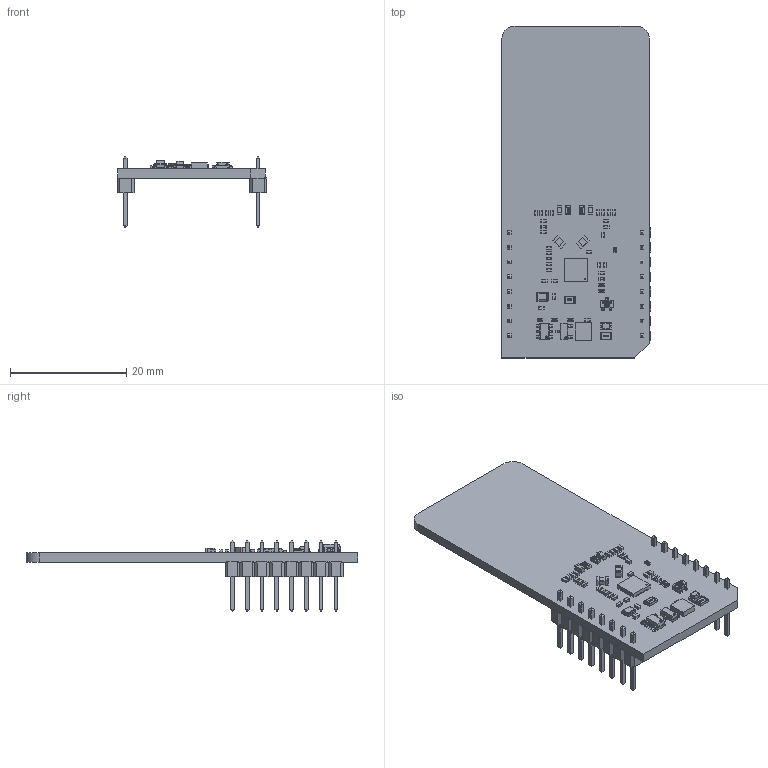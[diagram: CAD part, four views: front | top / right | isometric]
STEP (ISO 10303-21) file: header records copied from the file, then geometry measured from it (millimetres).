
FILE_DESCRIPTION(('Open CASCADE Model'),'2;1');
FILE_NAME('Open CASCADE Shape Model','2026-04-02T12:57:03',('Author'),( 'Open CASCADE'),'Open CASCADE STEP processor 6.8','Open CASCADE 6.8' ,'Unknown');
FILE_SCHEMA(('AUTOMOTIVE_DESIGN { 1 0 10303 214 1 1 1 1 }'));
Length unit declared in the file: millimetre
Products named in the file (76): PCB; Board; MBD1; Header_1x8; Free-Models; 1240637040; User_Library-PinHeaderX5-1_PinHeaderX5_Body_1; User_Library-PinHeaderX5-1_PinHeaderX5_Pins_1; JP1; User_Library-R_0805; U2; User_Library-SOT23-6-2; U1; 1252495080; Extruded; Q1; SOT23-3; R4; User_Library-R_0402; C1; User_Library-SMD_CAPACITOR0402; R2; LD1; led_0805_green; R1; R3; C2; C3; C4; C5; C6; C7; C8; C9; C10; C11; C12; C13; R5; U3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
Assembly tree (116 placements, depth 7):
  PCB
    Board
    MBD1
      Header_1x8  x2
        PCB
          Free-Models
            1240637040  x2
              User_Library-PinHeaderX5-1_PinHeaderX5_Body_1
              User_Library-PinHeaderX5-1_PinHeaderX5_Pins_1
    JP1
      User_Library-R_0805
    U2
      User_Library-SOT23-6-2
    U1
      1252495080
        Extruded
    Q1
      SOT23-3
    R4
      User_Library-R_0402
    C1
      User_Library-SMD_CAPACITOR0402
    R2
      User_Library-R_0402
    LD1
      led_0805_green
    R1
      User_Library-R_0805
    R3
      User_Library-R_0402
    C2
      User_Library-SMD_CAPACITOR0402
    C3
      User_Library-SMD_CAPACITOR0402
    C4
      User_Library-SMD_CAPACITOR0402
    C5
      User_Library-SMD_CAPACITOR0402
    C6
      User_Library-SMD_CAPACITOR0402
    C7
      User_Library-SMD_CAPACITOR0402
    C8
      User_Library-SMD_CAPACITOR0402
    C9
      User_Library-SMD_CAPACITOR0402
    C10
      User_Library-SMD_CAPACITOR0402
    C11
      User_Library-SMD_CAPACITOR0402
    C12
      User_Library-SMD_CAPACITOR0402
    C13
      User_Library-SMD_CAPACITOR0402
    R5
      User_Library-R_0402
    U3
      MAX8934AETI+
    Y1
      XRCGB27M000F2P00R0
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Bounding box: 25.78 x 57.15 x 12.19 mm (x, y, z)
Volume: 2907.5 mm3; surface area: 4839.9 mm2
Topology: 123 solids, 123 shells, 3959 faces, 9719 edges, 5880 vertices
Faces by surface type: plane 2297, bspline 694, cylinder 692, sphere 276
Entity records: 66339 total; most frequent: CARTESIAN_POINT 19118, ORIENTED_EDGE 8392, DIRECTION 6376, EDGE_CURVE 4196, LINE 3024, VECTOR 3024, VERTEX_POINT 2706, FACE_BOUND 1740
